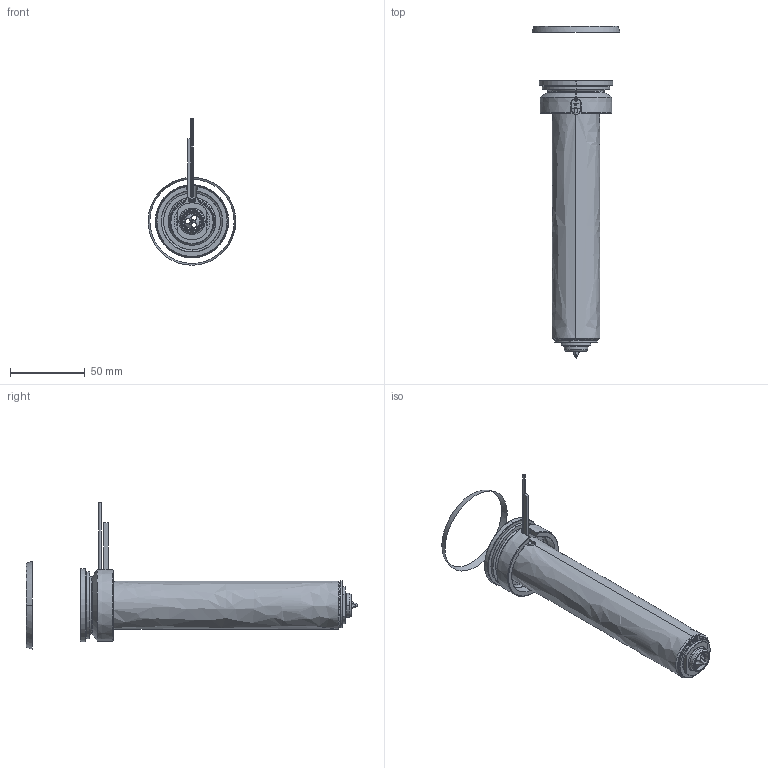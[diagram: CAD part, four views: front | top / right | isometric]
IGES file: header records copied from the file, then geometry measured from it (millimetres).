
Start section: SolidWorks IGES file using analytic representation for surfaces
Global section: file name: C:\Documents and Settings\ws-20\Desktop\TEM\UGEP5004-S-A-0 [Øf-1.18 ØC-12].IGS; native system: SolidWorks 2012; preprocessor: SolidWorks 2012; author: ws-20; date: 120426.100016; units: millimetre
Bounding box: 58.79 x 222.24 x 98.01 mm (x, y, z)
Surface area: 67671.3 mm2 (no closed solid volume)
Topology: 0 solids, 0 shells, 125 faces, 2407 edges, 2407 vertices
Faces by surface type: revolution 81, bspline 44
